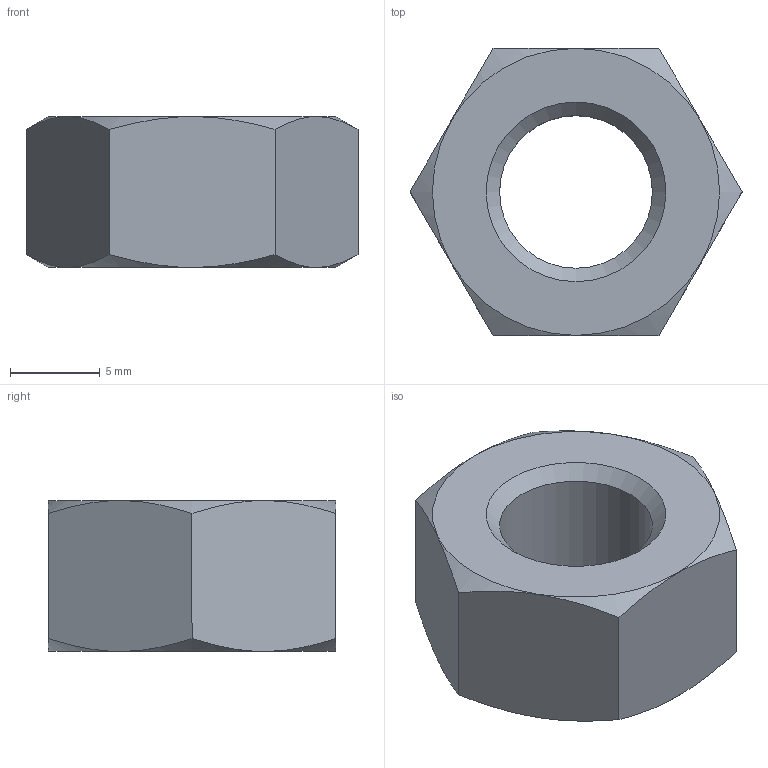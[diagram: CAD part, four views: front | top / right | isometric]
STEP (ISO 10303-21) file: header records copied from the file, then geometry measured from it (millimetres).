
FILE_DESCRIPTION( ( 'Unknown' ), '1' );
FILE_NAME( 'E:/-=Projekty=-/Projekty PKM/Solid Edge Standard Parts/nakrętki 4032/M10_PN-EN-ISO 4032_2004.stp.stp', 'Unknown', ( 'Unknown' ), ( 'Unknown' ), 'PSStep 14.0', 'Unknown', ' ' );
FILE_SCHEMA( ( 'AUTOMOTIVE_DESIGN { 1 0 10303 214 1 1 1 1 }' ) );
Length unit declared in the file: millimetre
Products named in the file (1): 1
Bounding box: 18.48 x 16 x 8.4 mm (x, y, z)
Volume: 1360.6 mm3; surface area: 976.5 mm2
Topology: 1 solids, 1 shells, 13 faces, 29 edges, 18 vertices
Faces by surface type: plane 8, cone 4, cylinder 1
Full cylindrical faces by diameter (mm): 8.5 x1
Entity records: 556 total; most frequent: CARTESIAN_POINT 180, ORIENTED_EDGE 48, DIRECTION 46, EDGE_CURVE 24, AXIS2_PLACEMENT_3D 20, EDGE_LOOP 20, VERTEX_POINT 18, FACE_OUTER_BOUND 14
